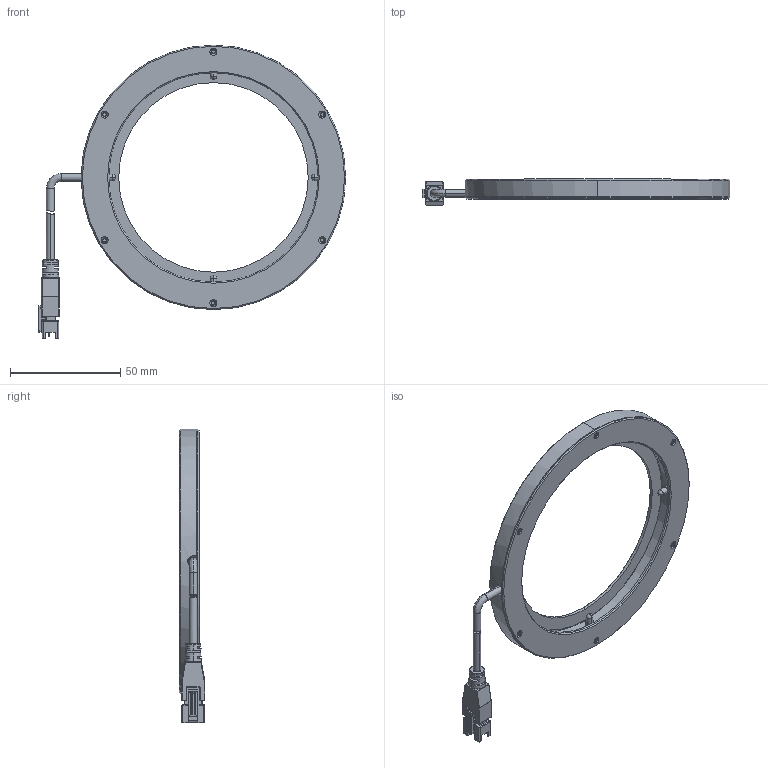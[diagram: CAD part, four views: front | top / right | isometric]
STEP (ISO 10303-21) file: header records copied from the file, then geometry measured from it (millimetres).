
FILE_DESCRIPTION (( 'STEP AP203' ), '1' );
FILE_NAME ('CRT-RL12000-¼òÒ×3DÍ¼.STEP', '2021-12-20T03:16:40', ( 'Admin' ), ( '' ), 'SwSTEP 2.0', 'SolidWorks 2018', '' );
FILE_SCHEMA (( 'CONFIG_CONTROL_DESIGN' ));
Length unit declared in the file: millimetre
Products named in the file (1): CRT-RL12000-潠眢3D芞
Bounding box: 139.45 x 11.6 x 133.23 mm (x, y, z)
Surface area: 28304.9 mm2 (no closed solid volume)
Topology: 0 solids, 6 shells, 286 faces, 806 edges, 518 vertices
Faces by surface type: plane 118, cylinder 117, cone 22, bspline 20, sphere 8, torus 1
Entity records: 10381 total; most frequent: CARTESIAN_POINT 2992, DIRECTION 1559, ORIENTED_EDGE 1439, EDGE_CURVE 796, AXIS2_PLACEMENT_3D 561, VERTEX_POINT 518, VECTOR 437, LINE 437
